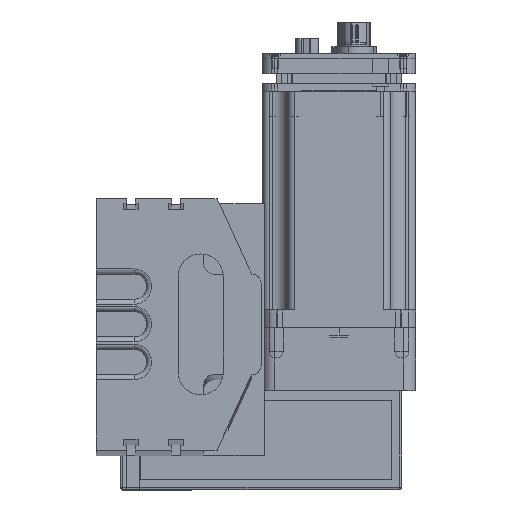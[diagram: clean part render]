
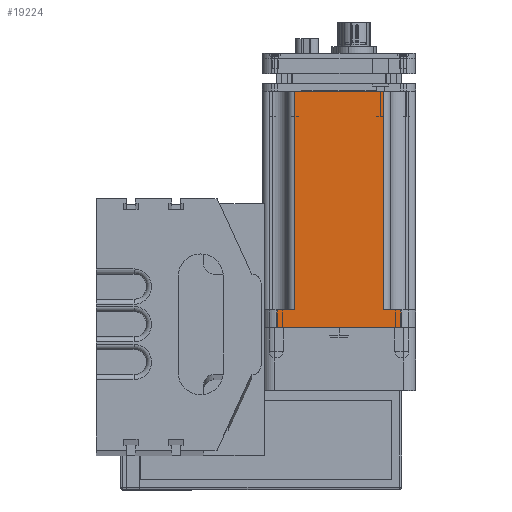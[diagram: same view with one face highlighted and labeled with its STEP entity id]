
A CAD part, top view. The second image highlights one B-rep face of the part: STEP entity #19224.
In plain terms, the highlighted planar face has unit normal (0, 0, 1).
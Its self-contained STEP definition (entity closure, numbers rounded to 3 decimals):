
#1495 = CARTESIAN_POINT ( 'NONE',  ( -17.5, 7., 30.5 ) ) ;
#1498 = LINE ( 'NONE', #1500, #1545 ) ;
#1500 = CARTESIAN_POINT ( 'NONE',  ( -24.5, 7., 30.5 ) ) ;
#1544 = DIRECTION ( 'NONE',  ( 1., 0., 0. ) ) ;
#1545 = VECTOR ( 'NONE', #1544, 1000. ) ;
#1684 = CARTESIAN_POINT ( 'NONE',  ( -24.5, 7., 30.5 ) ) ;
#1767 = DIRECTION ( 'NONE',  ( 0., 1., 0. ) ) ;
#1768 = VECTOR ( 'NONE', #1767, 1000. ) ;
#1769 = CARTESIAN_POINT ( 'NONE',  ( -24.5, 7., 30.5 ) ) ;
#1770 = LINE ( 'NONE', #1769, #1768 ) ;
#1844 = CARTESIAN_POINT ( 'NONE',  ( -24.5, 0., 30.5 ) ) ;
#2084 = CARTESIAN_POINT ( 'NONE',  ( 17.5, 94., 30.5 ) ) ;
#2086 = DIRECTION ( 'NONE',  ( 1., 0., 0. ) ) ;
#2087 = VECTOR ( 'NONE', #2086, 1000. ) ;
#2088 = AXIS2_PLACEMENT_3D ( 'NONE', #2135, #2134, #2133 ) ;
#2092 = FACE_OUTER_BOUND ( 'NONE', #19237, .T. ) ;
#2093 = CARTESIAN_POINT ( 'NONE',  ( 26.5, 94., 30.5 ) ) ;
#2094 = PLANE ( 'NONE',  #2088 ) ;
#2097 = LINE ( 'NONE', #2093, #2087 ) ;
#2117 = LINE ( 'NONE', #2131, #2161 ) ;
#2118 = DIRECTION ( 'NONE',  ( 1., 0., 0. ) ) ;
#2119 = VECTOR ( 'NONE', #2118, 1000. ) ;
#2121 = DIRECTION ( 'NONE',  ( 0., -1., 0. ) ) ;
#2122 = VECTOR ( 'NONE', #2121, 1000. ) ;
#2125 = DIRECTION ( 'NONE',  ( 1., 0., 0. ) ) ;
#2126 = VECTOR ( 'NONE', #2125, 1000. ) ;
#2127 = CARTESIAN_POINT ( 'NONE',  ( 17.5, 7., 30.5 ) ) ;
#2128 = CARTESIAN_POINT ( 'NONE',  ( -24.5, 7., 30.5 ) ) ;
#2129 = LINE ( 'NONE', #2128, #2119 ) ;
#2131 = CARTESIAN_POINT ( 'NONE',  ( -17.5, 7., 30.5 ) ) ;
#2133 = DIRECTION ( 'NONE',  ( -1., 0., 0. ) ) ;
#2134 = DIRECTION ( 'NONE',  ( 0., 0., -1. ) ) ;
#2135 = CARTESIAN_POINT ( 'NONE',  ( -24.5, 7., 30.5 ) ) ;
#2136 = CARTESIAN_POINT ( 'NONE',  ( -17.5, 94., 30.5 ) ) ;
#2137 = CARTESIAN_POINT ( 'NONE',  ( -24.5, 0., 30.5 ) ) ;
#2138 = LINE ( 'NONE', #2137, #2126 ) ;
#2143 = CARTESIAN_POINT ( 'NONE',  ( 24.5, 7., 30.5 ) ) ;
#2144 = CARTESIAN_POINT ( 'NONE',  ( 24.5, 7., 30.5 ) ) ;
#2145 = LINE ( 'NONE', #2144, #2122 ) ;
#2146 = CARTESIAN_POINT ( 'NONE',  ( 24.5, 0., 30.5 ) ) ;
#2160 = DIRECTION ( 'NONE',  ( 0., 1., 0. ) ) ;
#2161 = VECTOR ( 'NONE', #2160, 1000. ) ;
#2257 = DIRECTION ( 'NONE',  ( 0., -1., 0. ) ) ;
#2258 = VECTOR ( 'NONE', #2257, 1000. ) ;
#2259 = CARTESIAN_POINT ( 'NONE',  ( 17.5, 95.35, 30.5 ) ) ;
#2260 = LINE ( 'NONE', #2259, #2258 ) ;
#18881 = VERTEX_POINT ( 'NONE', #1495 ) ;
#18882 = EDGE_CURVE ( 'NONE', #18962, #18881, #1498, .T. ) ;
#18962 = VERTEX_POINT ( 'NONE', #1684 ) ;
#19006 = EDGE_CURVE ( 'NONE', #19031, #18962, #1770, .T. ) ;
#19031 = VERTEX_POINT ( 'NONE', #1844 ) ;
#19213 = EDGE_CURVE ( 'NONE', #19242, #19225, #2097, .T. ) ;
#19214 = ORIENTED_EDGE ( 'NONE', *, *, #19213, .F. ) ;
#19221 = ORIENTED_EDGE ( 'NONE', *, *, #19228, .T. ) ;
#19222 = ORIENTED_EDGE ( 'NONE', *, *, #19292, .F. ) ;
#19223 = ORIENTED_EDGE ( 'NONE', *, *, #18882, .F. ) ;
#19224 = ADVANCED_FACE ( 'NONE', ( #2092 ), #2094, .F. ) ;
#19225 = VERTEX_POINT ( 'NONE', #2084 ) ;
#19226 = VERTEX_POINT ( 'NONE', #2143 ) ;
#19227 = VERTEX_POINT ( 'NONE', #2146 ) ;
#19228 = EDGE_CURVE ( 'NONE', #19031, #19227, #2138, .T. ) ;
#19229 = ORIENTED_EDGE ( 'NONE', *, *, #19006, .F. ) ;
#19230 = VERTEX_POINT ( 'NONE', #2127 ) ;
#19231 = EDGE_CURVE ( 'NONE', #19226, #19227, #2145, .T. ) ;
#19233 = ORIENTED_EDGE ( 'NONE', *, *, #19231, .F. ) ;
#19234 = EDGE_CURVE ( 'NONE', #19230, #19226, #2129, .T. ) ;
#19237 = EDGE_LOOP ( 'NONE', ( #19247, #19223, #19229, #19221, #19233, #19291, #19222, #19214 ) ) ;
#19242 = VERTEX_POINT ( 'NONE', #2136 ) ;
#19244 = EDGE_CURVE ( 'NONE', #18881, #19242, #2117, .T. ) ;
#19247 = ORIENTED_EDGE ( 'NONE', *, *, #19244, .F. ) ;
#19291 = ORIENTED_EDGE ( 'NONE', *, *, #19234, .F. ) ;
#19292 = EDGE_CURVE ( 'NONE', #19225, #19230, #2260, .T. ) ;
